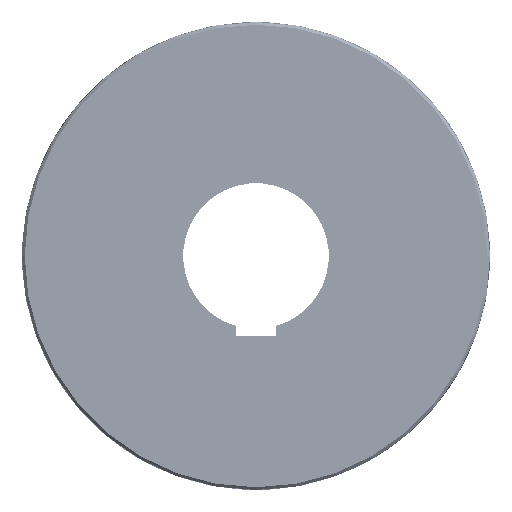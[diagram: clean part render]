
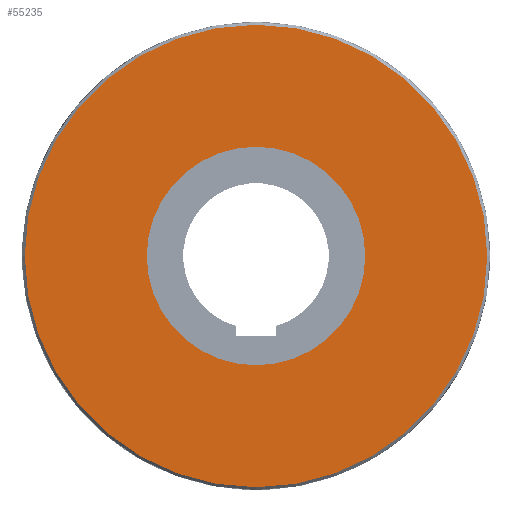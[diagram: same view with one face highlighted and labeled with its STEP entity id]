
A CAD part, left-side view. The second image highlights one B-rep face of the part: STEP entity #55235.
In plain terms, the highlighted planar face has unit normal (-1, 0, 0).
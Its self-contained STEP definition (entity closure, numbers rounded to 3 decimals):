
#9718=PLANE('',#60724);
#10530=FACE_BOUND('',#15115,.T.);
#11840=FACE_OUTER_BOUND('',#15114,.T.);
#15114=EDGE_LOOP('',(#43617));
#15115=EDGE_LOOP('',(#43618));
#19564=CIRCLE('',#60699,127.);
#19588=CIRCLE('',#60725,60.);
#24887=VERTEX_POINT('',#122747);
#24933=VERTEX_POINT('',#122845);
#31706=EDGE_CURVE('',#24887,#24887,#19564,.T.);
#31755=EDGE_CURVE('',#24933,#24933,#19588,.T.);
#43617=ORIENTED_EDGE('',*,*,#31706,.F.);
#43618=ORIENTED_EDGE('',*,*,#31755,.T.);
#55235=ADVANCED_FACE('',(#11840,#10530),#9718,.T.);
#60699=AXIS2_PLACEMENT_3D('',#122749,#73204,#73205);
#60724=AXIS2_PLACEMENT_3D('',#122844,#73279,#73280);
#60725=AXIS2_PLACEMENT_3D('',#122846,#73281,#73282);
#73204=DIRECTION('center_axis',(1.,0.,0.));
#73205=DIRECTION('ref_axis',(0.,-1.,0.));
#73279=DIRECTION('center_axis',(-1.,0.,0.));
#73280=DIRECTION('ref_axis',(0.,0.,
1.));
#73281=DIRECTION('center_axis',(1.,0.,0.));
#73282=DIRECTION('ref_axis',(0.,1.,0.));
#122747=CARTESIAN_POINT('',(-99.,127.,0.));
#122749=CARTESIAN_POINT('Origin',(-99.,0.,
0.));
#122844=CARTESIAN_POINT('Origin',(-99.,94.25,0.));
#122845=CARTESIAN_POINT('',(-99.,-60.,0.));
#122846=CARTESIAN_POINT('Origin',(-99.,0.,
0.));
